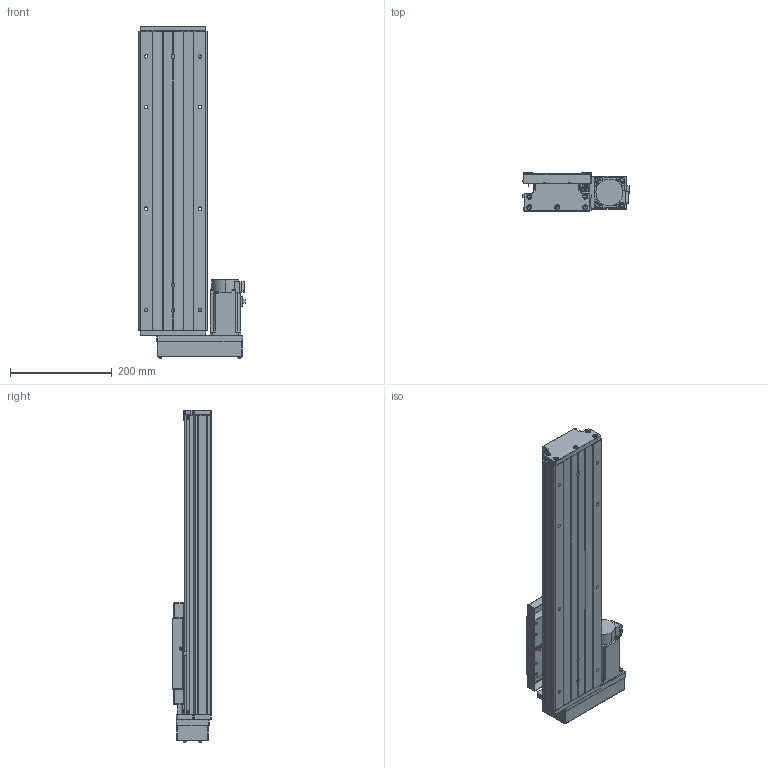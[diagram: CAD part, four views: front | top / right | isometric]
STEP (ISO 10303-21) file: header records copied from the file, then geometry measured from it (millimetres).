
FILE_DESCRIPTION (( 'STEP AP203' ), '1' );
FILE_NAME ('GTH14-350-BR-M40-C4.step', '2023-06-30T08:53:50', ( '微软用户' ), ( '微软中国' ), 'SwSTEP 2.0', 'SolidWorks 2020', '' );
FILE_SCHEMA (( 'CONFIG_CONTROL_DESIGN' ));
Length unit declared in the file: millimetre
Products named in the file (19): GBT70.1 M5℅16; GBT 70.2-M3¡Á5_M3¡Á6; CTHA60-017; す晦芛蹟隊 M3℅5; GTH14-001_350; EE_SX911P_R; HG-KN43J-S100; GTH14-002_GTH14-002; CTHA60-016; GBT 70.2-M4¡Á35_M4¡Á35; GTH14-004; GBT 70.1-M3℅5; GTH14-015-2_CTHA86-015-2; GTH14-005; GBT77-2000 M3×3; GTH14-033; GB1155-6X6; GTH14-031; GTH14-350-BR-M40-C4
Assembly tree (58 placements, depth 2):
  GTH14-350-BR-M40-C4
    GTH14-001_350
    GTH14-002_GTH14-002
    GTH14-004
    GTH14-005
    GB1155-6X6  x2
    GBT70.1 M5℅16  x10
    CTHA60-017  x3
    EE_SX911P_R  x3
    CTHA60-016  x2
    GBT 70.1-M3℅5  x6
    GBT77-2000 M3×3  x6
    GTH14-031
    GBT 70.2-M3¡Á5_M3¡Á6  x8
    す晦芛蹟隊 M3℅5  x6
    HG-KN43J-S100
    GBT 70.2-M4¡Á35_M4¡Á35  x4
    GTH14-015-2_CTHA86-015-2
    GTH14-033
Bounding box: 209.3 x 78 x 654.2 mm (x, y, z)
Volume: 3844914.1 mm3; surface area: 692821.8 mm2
Topology: 61 solids, 61 shells, 2443 faces, 5809 edges, 3578 vertices
Faces by surface type: plane 1305, cylinder 648, cone 314, torus 124, sphere 32, bspline 20
Entity records: 43850 total; most frequent: CARTESIAN_POINT 9807, DIRECTION 6429, ORIENTED_EDGE 6308, EDGE_CURVE 3154, AXIS2_PLACEMENT_3D 2192, VECTOR 2045, LINE 2045, VERTEX_POINT 1996
